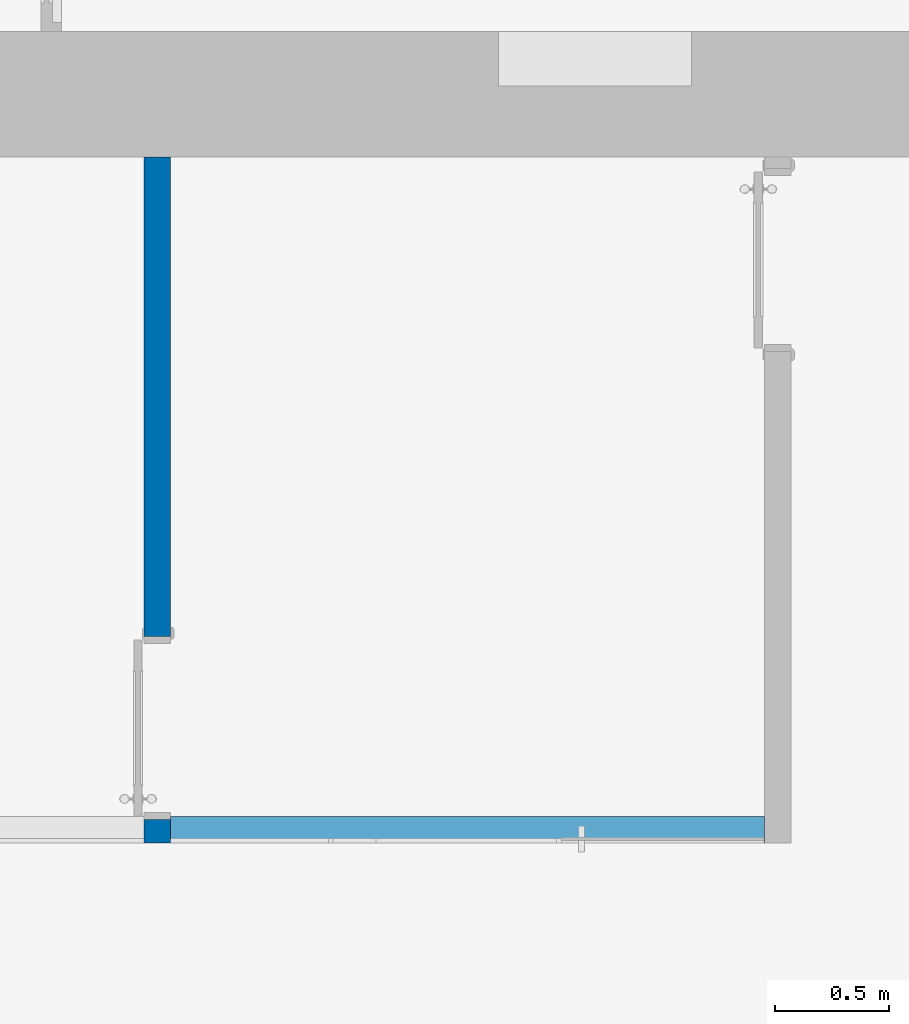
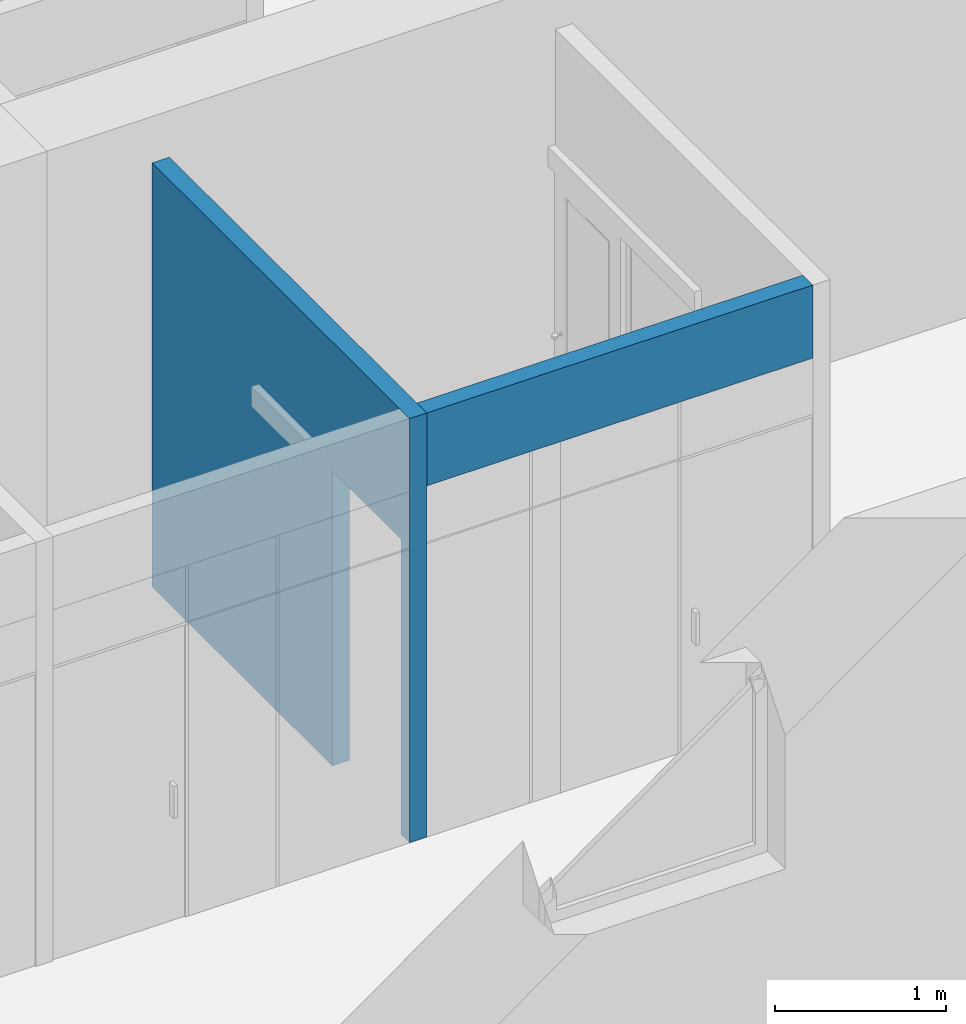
# One storey, part 22 of 49: 2 walls, 1 opening.
"""IFC2X3 building model written with IfcOpenShell, lengths in millimetres."""

from ifc_helpers import new_model, entity, si_unit, converted_unit, derived_unit, direction, frame, frame_2d, origin, place, context, subcontext, project, spatial, rectangle, extrude, material, layer, layer_set, layer_usage, type_object, element, save


model = new_model("IFC2X3")

# Units and contexts
model_context = context("Model", 3, precision=0.01, world=origin(), true_north=direction((6.12303176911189e-17, 1.0)))
body_context = subcontext(model_context, "Body", "Model", "MODEL_VIEW")
ifc_project = project(units=[si_unit("LENGTHUNIT", "METRE", prefix="MILLI"), si_unit("AREAUNIT", "SQUARE_METRE"), si_unit("VOLUMEUNIT", "CUBIC_METRE"), converted_unit("PLANEANGLEUNIT", "DEGREE", entity("IfcRatioMeasure", 0.0174532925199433), si_unit("PLANEANGLEUNIT", "RADIAN"), dimensions=[0, 0, 0, 0, 0, 0, 0]), si_unit("MASSUNIT", "GRAM", prefix="KILO"), derived_unit("MASSDENSITYUNIT", [(si_unit("MASSUNIT", "GRAM", prefix="KILO"), 1), (si_unit("LENGTHUNIT", "METRE"), -3)]), si_unit("TIMEUNIT", "SECOND"), si_unit("FREQUENCYUNIT", "HERTZ"), si_unit("THERMODYNAMICTEMPERATUREUNIT", "DEGREE_CELSIUS"), derived_unit("THERMALTRANSMITTANCEUNIT", [(si_unit("MASSUNIT", "GRAM", prefix="KILO"), 1), (si_unit("THERMODYNAMICTEMPERATUREUNIT", "KELVIN"), -1), (si_unit("TIMEUNIT", "SECOND"), -3)]), derived_unit("VOLUMETRICFLOWRATEUNIT", [(si_unit("LENGTHUNIT", "METRE"), 3), (si_unit("TIMEUNIT", "SECOND"), -1)]), si_unit("ELECTRICCURRENTUNIT", "AMPERE"), si_unit("ELECTRICVOLTAGEUNIT", "VOLT"), si_unit("POWERUNIT", "WATT"), si_unit("FORCEUNIT", "NEWTON", prefix="KILO"), si_unit("ILLUMINANCEUNIT", "LUX"), si_unit("LUMINOUSFLUXUNIT", "LUMEN"), si_unit("LUMINOUSINTENSITYUNIT", "CANDELA"), derived_unit("USERDEFINED", [(si_unit("MASSUNIT", "GRAM", prefix="KILO"), -1), (si_unit("LENGTHUNIT", "METRE"), -2), (si_unit("TIMEUNIT", "SECOND"), 3), (si_unit("LUMINOUSFLUXUNIT", "LUMEN"), 1)]), derived_unit("LINEARVELOCITYUNIT", [(si_unit("LENGTHUNIT", "METRE"), 1), (si_unit("TIMEUNIT", "SECOND"), -1)]), si_unit("PRESSUREUNIT", "PASCAL"), derived_unit("USERDEFINED", [(si_unit("LENGTHUNIT", "METRE"), -2), (si_unit("MASSUNIT", "GRAM", prefix="KILO"), 1), (si_unit("TIMEUNIT", "SECOND"), -2)])], contexts=[model_context])

# Site, building, storey
site_placement = place(None, frame((-151.875543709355, 2715.0, 0.0)))
site = spatial("IfcSite", under=ifc_project, at=site_placement, Name="Surface", CompositionType="ELEMENT")
building_placement = place(site_placement, origin())
building = spatial("IfcBuilding", under=site, at=building_placement, CompositionType="ELEMENT")
storey_placement = place(building_placement, origin())
storey = spatial("IfcBuildingStorey", under=building, at=storey_placement, Name="1 korrus", CompositionType="ELEMENT", Elevation=3.0969999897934e-10)

# Wall, opening
ifc_material_1 = material(Name="__Kips GN13_tava")
ifc_layer_1 = layer(ifc_material_1, 12.5)
ifc_layer_2 = layer(ifc_material_1, 12.5)
ifc_material_2 = material(Name="__Soojustus EPS")
ifc_layer_3 = layer(ifc_material_2, 66.0)
ifc_layer_4 = layer(ifc_material_1, 12.5)
ifc_layer_5 = layer(ifc_material_1, 12.5)
ifc_layer_set = layer_set([ifc_layer_1, ifc_layer_2, ifc_layer_3, ifc_layer_4, ifc_layer_5], Name="Basic Wall:SS-3_Kipssein tava ruumide vahel")
ifc_layer_usage_1 = layer_usage(ifc_layer_set, "AXIS2", "POSITIVE", -58.0)
wall_type = type_object("IfcWallType", Name="Basic Wall:SS-3_Kipssein tava ruumide vahel", PredefinedType="STANDARD", material=ifc_layer_set)
wall_1_placement = place(storey_placement, frame((16996.2710850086, 3007.5, 0.0), z_axis=(0.0, 0.0, 1.0), x_axis=(0.0, 1.0, 0.0)))
wall_1 = element("IfcWallStandardCase", 1, at=wall_1_placement, inside=storey, type_object=wall_type, material=ifc_layer_usage_1, Name="Basic Wall:SS-3_Kipssein tava ruumide vahel", ObjectType="Basic Wall:SS-3_Kipssein tava ruumide vahel", context=body_context, shape_type="SweptSolid", body=[
    extrude(rectangle(XDim=3002.49999999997, YDim=116.0, at=frame_2d((1501.24999999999, 1.59872115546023e-13), x_axis=(-1.0, 0.0))), origin(), (0.0, 0.0, 1.0), 3020.0),
])
opening_placement = place(wall_1_placement, frame((102.499999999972, -58.0, 0.0)))
element("IfcOpeningElement", 2, at=opening_placement, cuts=wall_1, Name="Lükanduks:SU-18.:1", ObjectType="Opening", context=body_context, shape_type="SweptSolid", body=[
    extrude(rectangle(XDim=2099.99999999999, YDim=800.0, at=frame_2d((1049.99999999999, 400.0), x_axis=(1.0, 0.0))), frame((0.0, 0.0, 0.0), z_axis=(0.0, 1.0, 0.0), x_axis=(0.0, 0.0, 1.0)), (0.0, 0.0, 1.0), 116.0),
])

# Wall
ifc_layer_usage_2 = layer_usage(ifc_layer_set, "AXIS2", "NEGATIVE", 58.0)
wall_2_placement = place(storey_placement, frame((17054.2710850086, 3065.5, 2500.0)))
element("IfcWallStandardCase", 3, at=wall_2_placement, inside=storey, type_object=wall_type, material=ifc_layer_usage_2, Name="Basic Wall:SS-3_Kipssein tava ruumide vahel", ObjectType="Basic Wall:SS-3_Kipssein tava ruumide vahel", context=body_context, shape_type="SweptSolid", body=[
    extrude(rectangle(XDim=2599.99999999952, YDim=116.0, at=frame_2d((1299.99999999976, 4.9737991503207e-14), x_axis=(-1.0, 0.0))), origin(), (0.0, 0.0, 1.0), 519.99999999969),
])

save(model, "model.ifc")
